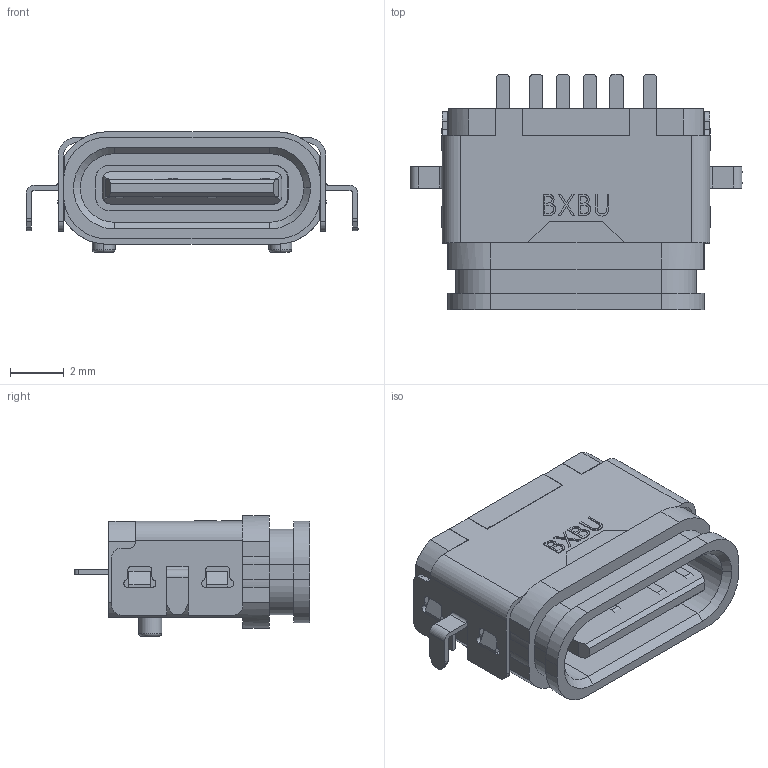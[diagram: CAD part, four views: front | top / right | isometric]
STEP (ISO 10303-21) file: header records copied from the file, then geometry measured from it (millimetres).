
FILE_DESCRIPTION (( 'STEP AP214' ), '1' );
FILE_NAME ('U5373-06PN1.6C7.5LF.STEP', '2026-07-31T01:18:57', ( '' ), ( '' ), 'SwSTEP 2.0', 'SolidWorks 2024', '' );
FILE_SCHEMA (( 'AUTOMOTIVE_DESIGN' ));
Length unit declared in the file: millimetre
Products named in the file (7): ________.STEP.STEP; 6P防水-沉板1.6.STEP; U5373-06PN1.6C7.5LF(2); 护套加胶常规款; ____________.STEP.STEP; U5373-06PN1.6C7.5LF; ______________1.6.STEP.STEP
Assembly tree (6 placements, depth 4):
  U5373-06PN1.6C7.5LF
    U5373-06PN1.6C7.5LF(2)
      6P防水-沉板1.6.STEP
        ____________.STEP.STEP
        ________.STEP.STEP
        ______________1.6.STEP.STEP
      护套加胶常规款
Bounding box: 12.4 x 8.79 x 4.5 mm (x, y, z)
Volume: 185.8 mm3; surface area: 738.1 mm2
Topology: 15 solids, 15 shells, 550 faces, 1464 edges, 965 vertices
Faces by surface type: plane 320, cylinder 184, bspline 25, torus 18, cone 3
Entity records: 18829 total; most frequent: CARTESIAN_POINT 4646, ORIENTED_EDGE 2928, DIRECTION 2861, EDGE_CURVE 1464, LINE 999, VECTOR 999, VERTEX_POINT 965, AXIS2_PLACEMENT_3D 931
